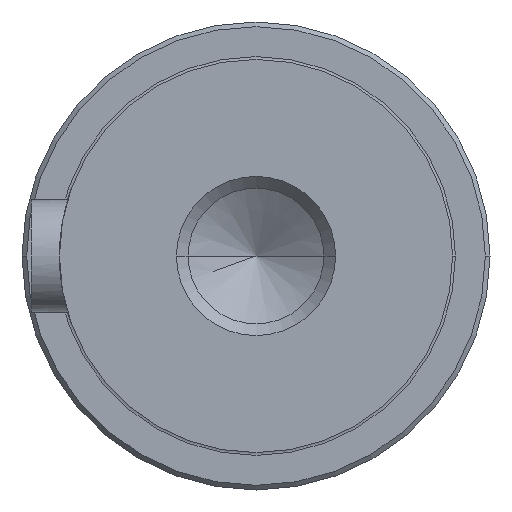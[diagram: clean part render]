
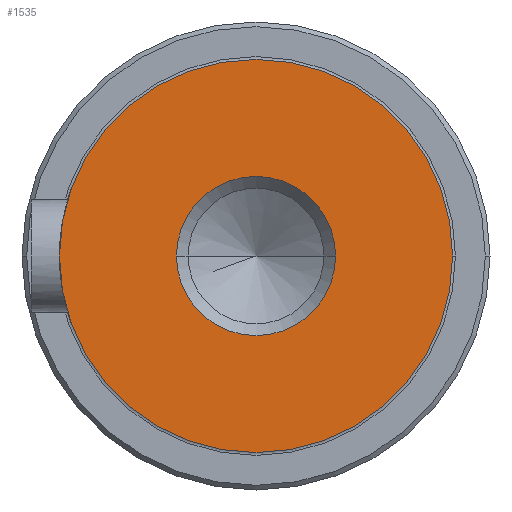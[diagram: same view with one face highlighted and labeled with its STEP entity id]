
A CAD part, left-side view. The second image highlights one B-rep face of the part: STEP entity #1535.
In plain terms, the highlighted planar face has unit normal (-1, 0, 0).
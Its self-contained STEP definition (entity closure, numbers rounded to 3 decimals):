
#485=CARTESIAN_POINT('',(0.,0.,0.));
#486=DIRECTION('',(1.,0.,0.));
#487=DIRECTION('',(0.,-1.,0.));
#488=AXIS2_PLACEMENT_3D('',#485,#486,#487);
#490=CARTESIAN_POINT('',(0.,0.,0.));
#491=DIRECTION('',(1.,0.,0.));
#492=DIRECTION('',(0.,1.,0.));
#493=AXIS2_PLACEMENT_3D('',#490,#491,#492);
#495=CARTESIAN_POINT('',(0.,0.,0.));
#496=DIRECTION('',(-1.,0.,0.));
#497=DIRECTION('',(0.,1.,0.));
#498=AXIS2_PLACEMENT_3D('',#495,#496,#497);
#500=CARTESIAN_POINT('',(0.,0.,0.));
#501=DIRECTION('',(-1.,0.,0.));
#502=DIRECTION('',(0.,-1.,0.));
#503=AXIS2_PLACEMENT_3D('',#500,#501,#502);
#819=CARTESIAN_POINT('',(0.,21.,0.));
#820=VERTEX_POINT('',#819);
#822=CARTESIAN_POINT('',(0.,-21.,0.));
#824=VERTEX_POINT('',#822);
#884=CARTESIAN_POINT('',(0.,8.5,0.));
#885=CARTESIAN_POINT('',(0.,-8.5,0.));
#886=VERTEX_POINT('',#884);
#887=VERTEX_POINT('',#885);
#1520=CARTESIAN_POINT('',(0.,0.,0.));
#1521=DIRECTION('',(1.,0.,0.));
#1522=DIRECTION('',(0.,-1.,0.));
#1523=AXIS2_PLACEMENT_3D('',#1520,#1521,#1522);
#1524=PLANE('',#1523);
#1525=ORIENTED_EDGE('',*,*,#1405,.T.);
#1526=ORIENTED_EDGE('',*,*,#1491,.T.);
#1527=EDGE_LOOP('',(#1525,#1526));
#1528=FACE_OUTER_BOUND('',#1527,.F.);
#1530=ORIENTED_EDGE('',*,*,#1529,.T.);
#1532=ORIENTED_EDGE('',*,*,#1531,.T.);
#1533=EDGE_LOOP('',(#1530,#1532));
#1534=FACE_BOUND('',#1533,.F.);
#1535=ADVANCED_FACE('',(#1528,#1534),#1524,.F.);
#489=CIRCLE('',#488,21.);
#494=CIRCLE('',#493,21.);
#499=CIRCLE('',#498,8.5);
#504=CIRCLE('',#503,8.5);
#1405=EDGE_CURVE('',#824,#820,#489,.T.);
#1491=EDGE_CURVE('',#820,#824,#494,.T.);
#1529=EDGE_CURVE('',#886,#887,#499,.T.);
#1531=EDGE_CURVE('',#887,#886,#504,.T.);
